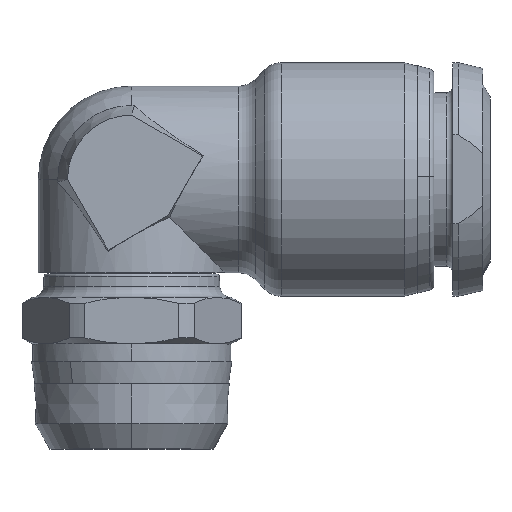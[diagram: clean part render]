
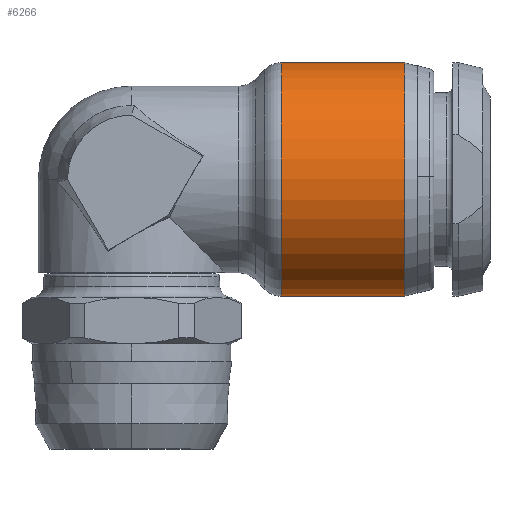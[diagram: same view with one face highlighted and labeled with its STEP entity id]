
A CAD part, top view. The second image highlights one B-rep face of the part: STEP entity #6266.
In plain terms, the highlighted cylindrical face has radius 10 mm (diameter 20 mm), a partial arc.
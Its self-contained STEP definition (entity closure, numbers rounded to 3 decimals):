
#93 = AXIS2_PLACEMENT_3D ( 'NONE', #4245, #4246, #4247 ) ;
#95 = AXIS2_PLACEMENT_3D ( 'NONE', #4252, #4253, #4254 ) ;
#511 = VERTEX_POINT ( 'NONE', #1777 ) ;
#512 = VERTEX_POINT ( 'NONE', #1778 ) ;
#513 = VERTEX_POINT ( 'NONE', #1779 ) ;
#514 = VERTEX_POINT ( 'NONE', #1780 ) ;
#1777 = CARTESIAN_POINT ( 'NONE',  ( 23.38, 10., 0. ) ) ;
#1778 = CARTESIAN_POINT ( 'NONE',  ( 23.38, -10., 0. ) ) ;
#1779 = CARTESIAN_POINT ( 'NONE',  ( 12.828, 10., 0. ) ) ;
#1780 = CARTESIAN_POINT ( 'NONE',  ( 12.828, -10., 0. ) ) ;
#2252 = LINE ( 'NONE', #4240, #2253 ) ;
#2253 = VECTOR ( 'NONE', #4239, 1000. ) ;
#2254 = LINE ( 'NONE', #4244, #2257 ) ;
#2255 = CIRCLE ( 'NONE', #93, 10. ) ;
#2256 = CIRCLE ( 'NONE', #95, 10. ) ;
#2257 = VECTOR ( 'NONE', #4188, 1000. ) ;
#2909 = EDGE_LOOP ( 'NONE', ( #4390, #4391, #4392, #4393 ) ) ;
#2949 = EDGE_CURVE ( 'NONE', #513, #511, #2252, .T. ) ;
#2950 = EDGE_CURVE ( 'NONE', #511, #512, #2255, .T. ) ;
#2951 = EDGE_CURVE ( 'NONE', #514, #512, #2254, .T. ) ;
#2953 = EDGE_CURVE ( 'NONE', #513, #514, #2256, .T. ) ;
#4188 = DIRECTION ( 'NONE',  ( 1., 0., 0. ) ) ;
#4239 = DIRECTION ( 'NONE',  ( 1., 0., 0. ) ) ;
#4240 = CARTESIAN_POINT ( 'NONE',  ( 24.5, 10., 0. ) ) ;
#4244 = CARTESIAN_POINT ( 'NONE',  ( 24.5, -10., 0. ) ) ;
#4245 = CARTESIAN_POINT ( 'NONE',  ( 23.38, 0., 0. ) ) ;
#4246 = DIRECTION ( 'NONE',  ( 1., 0., 0. ) ) ;
#4247 = DIRECTION ( 'NONE',  ( 0., 1., 0. ) ) ;
#4252 = CARTESIAN_POINT ( 'NONE',  ( 12.828, 0., 0. ) ) ;
#4253 = DIRECTION ( 'NONE',  ( 1., 0., 0. ) ) ;
#4254 = DIRECTION ( 'NONE',  ( 0., 1., 0. ) ) ;
#4390 = ORIENTED_EDGE ( 'NONE', *, *, #2953, .T. ) ;
#4391 = ORIENTED_EDGE ( 'NONE', *, *, #2951, .T. ) ;
#4392 = ORIENTED_EDGE ( 'NONE', *, *, #2950, .F. ) ;
#4393 = ORIENTED_EDGE ( 'NONE', *, *, #2949, .F. ) ;
#5005 = AXIS2_PLACEMENT_3D ( 'NONE', #5194, #5192, #5190 ) ;
#5190 = DIRECTION ( 'NONE',  ( 0., 1., 0. ) ) ;
#5192 = DIRECTION ( 'NONE',  ( 1., 0., 0. ) ) ;
#5194 = CARTESIAN_POINT ( 'NONE',  ( 24.5, 0., 0. ) ) ;
#5454 = FACE_OUTER_BOUND ( 'NONE', #2909, .T. ) ;
#5461 = CYLINDRICAL_SURFACE ( 'NONE', #5005, 10. ) ;
#6266 = ADVANCED_FACE ( 'NONE', ( #5454 ), #5461, .T. ) ;
